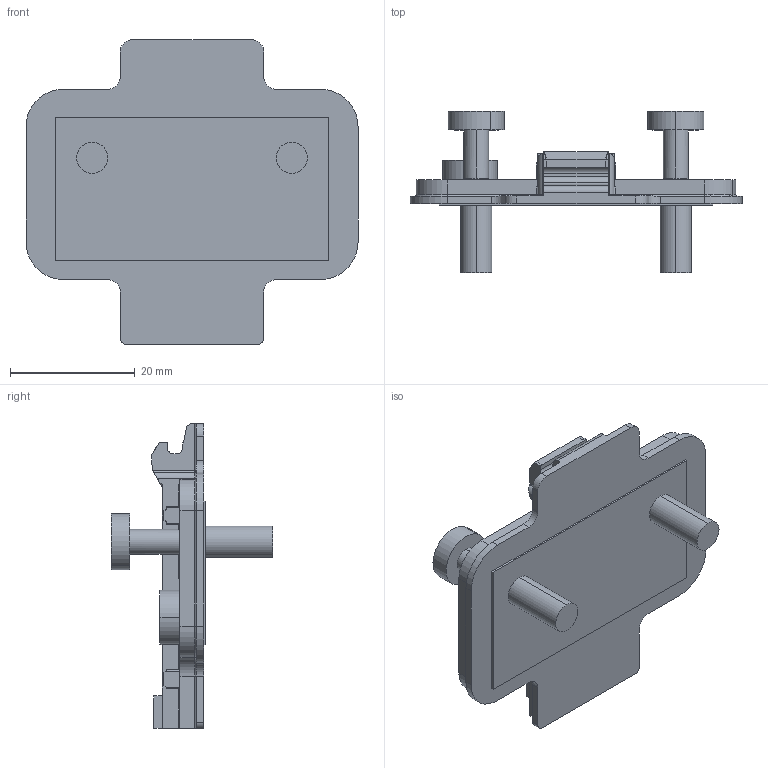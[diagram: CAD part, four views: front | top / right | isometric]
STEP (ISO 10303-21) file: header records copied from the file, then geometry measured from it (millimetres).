
FILE_DESCRIPTION (( 'STEP AP203' ), '1' );
FILE_NAME ('81T04TQA.STEP', '2024-07-27T01:24:24', ( '微软用户' ), ( '微软中国' ), 'SwSTEP 2.0', 'SolidWorks 2021', '' );
FILE_SCHEMA (( 'CONFIG_CONTROL_DESIGN' ));
Length unit declared in the file: millimetre
Products named in the file (1): 81T04TQA
Bounding box: 53.2 x 25.82 x 48.85 mm (x, y, z)
Volume: 9955.9 mm3; surface area: 6565.8 mm2
Topology: 1 solids, 1 shells, 453 faces, 1217 edges, 758 vertices
Faces by surface type: cylinder 178, plane 141, torus 70, bspline 40, cone 12, sphere 12
Entity records: 15399 total; most frequent: CARTESIAN_POINT 4320, ORIENTED_EDGE 2406, DIRECTION 2271, EDGE_CURVE 1203, AXIS2_PLACEMENT_3D 884, VERTEX_POINT 758, VECTOR 503, LINE 503
